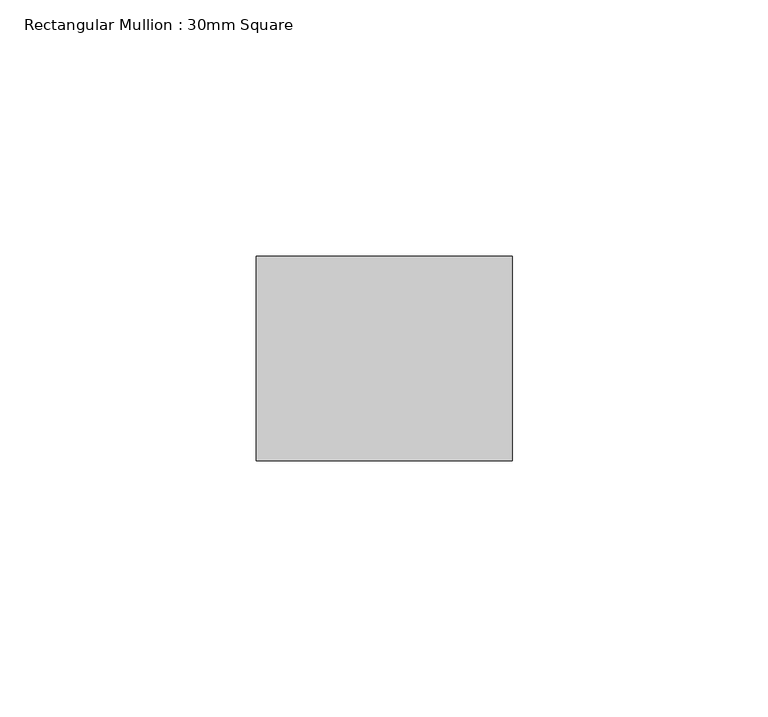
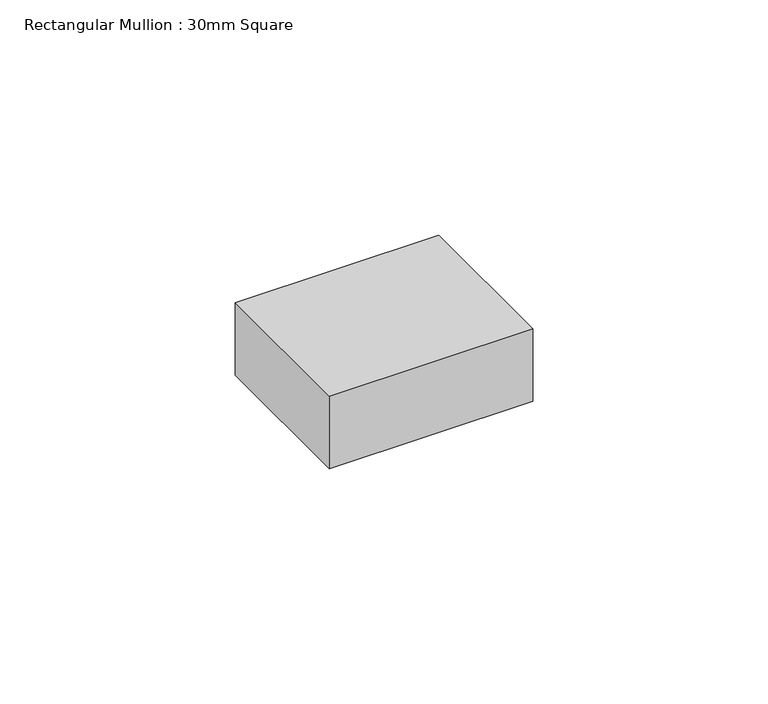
"""IFC4 building model written with IfcOpenShell, lengths in millimetres: member geometry, Rectangular Mullion : 30mm Square."""

from ifc_helpers import new_model, si_unit, frame, origin, place, context, project, spatial, polyline, outline, extrude, source, transform, mapped, element, save


def rectangular_mullion_30mm_square_376ee912(model_context):
    return source(origin(), model_context, "Body", "SweptSolid", [
        extrude(outline(polyline([(0.0, 20.0), (0.0, -20.0), (-50.0, -20.0), (-50.0, 20.0), (0.0, 20.0)])), frame((0.0, 0.0, -18.8162338), z_axis=(0.0, 0.0, 1.0), x_axis=(1.0, 0.0, 0.0)), (0.0, 0.0, 1.0), 18.8162338),
    ])


if __name__ == "__main__":
    model = new_model("IFC4")
    model_context = context("Model", 3, world=origin())
    ifc_project = project(units=[si_unit("LENGTHUNIT", "METRE", prefix="MILLI")], contexts=[model_context])
    site = spatial("IfcSite", under=ifc_project)
    building = spatial("IfcBuilding", under=site)
    placement = place(None, origin())
    rectangular_mullion_30mm_square_shape = rectangular_mullion_30mm_square_376ee912(model_context)
    element("IfcMember", 1, ObjectType="Rectangular Mullion : 30mm Square", at=placement, inside=building, context=model_context, shape_type="MappedRepresentation", body=[
        mapped(rectangular_mullion_30mm_square_shape, transform((0.0, 0.0, 0.0), x_axis=(1.0, 0.0, 0.0), y_axis=(0.0, 1.0, 0.0), z_axis=(0.0, 0.0, 1.0))),
    ])
    save(model, "model.ifc")
